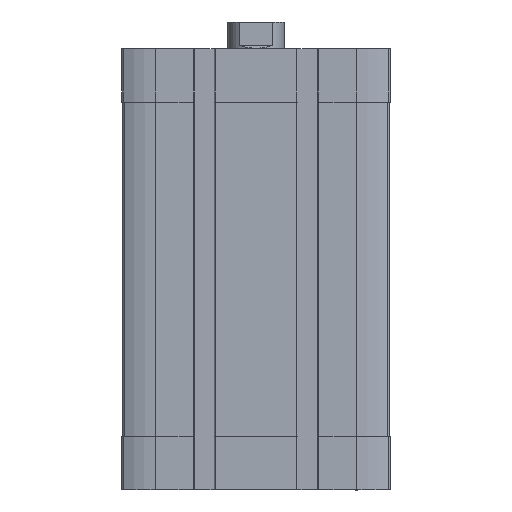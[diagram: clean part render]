
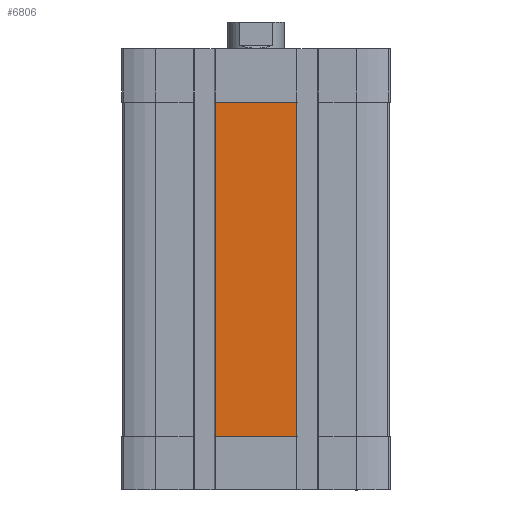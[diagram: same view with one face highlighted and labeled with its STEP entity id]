
A CAD part, front view. The second image highlights one B-rep face of the part: STEP entity #6806.
In plain terms, the highlighted planar face has unit normal (0, -1, 0).
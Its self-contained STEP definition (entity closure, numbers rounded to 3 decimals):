
#347 = ORIENTED_EDGE ( 'NONE', *, *, #4671, .T. ) ;
#639 = CARTESIAN_POINT ( 'NONE',  ( -11.4, -37.5, -109. ) ) ;
#1357 = ORIENTED_EDGE ( 'NONE', *, *, #10706, .T. ) ;
#1431 = VECTOR ( 'NONE', #4534, 1000. ) ;
#1444 = VERTEX_POINT ( 'NONE', #11731 ) ;
#1647 = LINE ( 'NONE', #7079, #7173 ) ;
#3253 = ORIENTED_EDGE ( 'NONE', *, *, #5133, .T. ) ;
#3430 = EDGE_CURVE ( 'NONE', #14490, #3471, #1647, .T. ) ;
#3471 = VERTEX_POINT ( 'NONE', #10380 ) ;
#3975 = VERTEX_POINT ( 'NONE', #11398 ) ;
#4534 = DIRECTION ( 'NONE',  ( 0., 0., -1. ) ) ;
#4571 = LINE ( 'NONE', #15183, #1431 ) ;
#4671 = EDGE_CURVE ( 'NONE', #3975, #1444, #4571, .T. ) ;
#4922 = LINE ( 'NONE', #7401, #11226 ) ;
#5133 = EDGE_CURVE ( 'NONE', #3471, #3975, #4922, .T. ) ;
#5164 = LINE ( 'NONE', #639, #8348 ) ;
#5478 = CARTESIAN_POINT ( 'NONE',  ( -11.4, -37.5, -109. ) ) ;
#6502 = DIRECTION ( 'NONE',  ( 1., 0., 0. ) ) ;
#6675 = PLANE ( 'NONE',  #6940 ) ;
#6806 = ADVANCED_FACE ( 'NONE', ( #10828 ), #6675, .T. ) ;
#6940 = AXIS2_PLACEMENT_3D ( 'NONE', #5478, #14932, #7881 ) ;
#7079 = CARTESIAN_POINT ( 'NONE',  ( 11.4, -37.5, -109. ) ) ;
#7173 = VECTOR ( 'NONE', #8298, 1000. ) ;
#7401 = CARTESIAN_POINT ( 'NONE',  ( 0., -37.5, -15. ) ) ;
#7543 = CARTESIAN_POINT ( 'NONE',  ( 11.4, -37.5, -109. ) ) ;
#7881 = DIRECTION ( 'NONE',  ( 0., 0., -1. ) ) ;
#8298 = DIRECTION ( 'NONE',  ( 0., 0., 1. ) ) ;
#8348 = VECTOR ( 'NONE', #6502, 1000. ) ;
#10380 = CARTESIAN_POINT ( 'NONE',  ( 11.4, -37.5, -15. ) ) ;
#10706 = EDGE_CURVE ( 'NONE', #1444, #14490, #5164, .T. ) ;
#10828 = FACE_OUTER_BOUND ( 'NONE', #13084, .T. ) ;
#11226 = VECTOR ( 'NONE', #13293, 1000. ) ;
#11398 = CARTESIAN_POINT ( 'NONE',  ( -11.4, -37.5, -15. ) ) ;
#11731 = CARTESIAN_POINT ( 'NONE',  ( -11.4, -37.5, -109. ) ) ;
#12217 = ORIENTED_EDGE ( 'NONE', *, *, #3430, .T. ) ;
#13084 = EDGE_LOOP ( 'NONE', ( #1357, #12217, #3253, #347 ) ) ;
#13293 = DIRECTION ( 'NONE',  ( -1., 0., 0. ) ) ;
#14490 = VERTEX_POINT ( 'NONE', #7543 ) ;
#14932 = DIRECTION ( 'NONE',  ( 0., -1., 0. ) ) ;
#15183 = CARTESIAN_POINT ( 'NONE',  ( -11.4, -37.5, -109. ) ) ;
